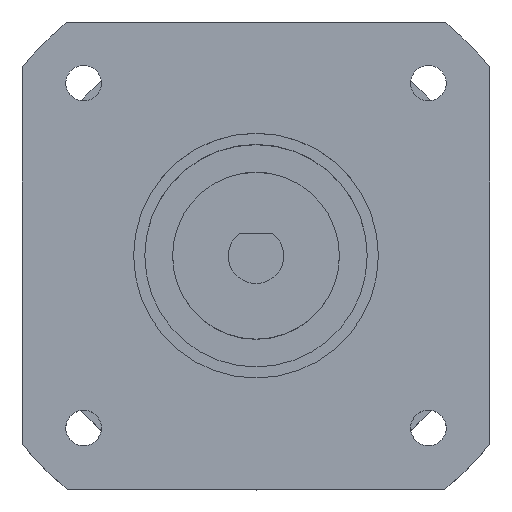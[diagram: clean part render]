
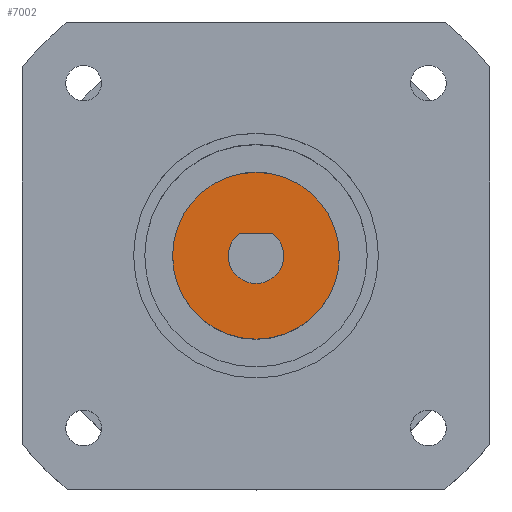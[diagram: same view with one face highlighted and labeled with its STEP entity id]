
A CAD part, top view. The second image highlights one B-rep face of the part: STEP entity #7002.
In plain terms, the highlighted planar face has unit normal (0, 0, 1).
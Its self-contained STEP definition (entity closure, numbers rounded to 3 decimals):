
#115 = CARTESIAN_POINT ( 'NONE',  ( 0., 0., 2.2 ) ) ;
#129 = CIRCLE ( 'NONE', #1413, 2.5 ) ;
#138 = VERTEX_POINT ( 'NONE', #1437 ) ;
#370 = DIRECTION ( 'NONE',  ( 1., 0., 0. ) ) ;
#404 = DIRECTION ( 'NONE',  ( 0., 0., 1. ) ) ;
#442 = AXIS2_PLACEMENT_3D ( 'NONE', #1451, #6520, #2112 ) ;
#488 = VERTEX_POINT ( 'NONE', #7014 ) ;
#688 = AXIS2_PLACEMENT_3D ( 'NONE', #115, #1170, #5799 ) ;
#1004 = DIRECTION ( 'NONE',  ( 0., 0., 1. ) ) ;
#1068 = EDGE_CURVE ( 'NONE', #5785, #2132, #1134, .T. ) ;
#1089 = CARTESIAN_POINT ( 'NONE',  ( 1.5, 2., 2.2 ) ) ;
#1134 = CIRCLE ( 'NONE', #442, 7.5 ) ;
#1156 = CIRCLE ( 'NONE', #688, 7.5 ) ;
#1170 = DIRECTION ( 'NONE',  ( 0., 0., 1. ) ) ;
#1413 = AXIS2_PLACEMENT_3D ( 'NONE', #1649, #404, #6600 ) ;
#1437 = CARTESIAN_POINT ( 'NONE',  ( -2.5, 0., 2.2 ) ) ;
#1451 = CARTESIAN_POINT ( 'NONE',  ( 0., 0., 2.2 ) ) ;
#1568 = AXIS2_PLACEMENT_3D ( 'NONE', #6046, #1004, #3908 ) ;
#1649 = CARTESIAN_POINT ( 'NONE',  ( 0., 0., 2.2 ) ) ;
#1716 = EDGE_CURVE ( 'NONE', #488, #4081, #129, .T. ) ;
#1748 = CARTESIAN_POINT ( 'NONE',  ( -7.5, 0., 2.2 ) ) ;
#1967 = DIRECTION ( 'NONE',  ( 0., 0., 1. ) ) ;
#1973 = EDGE_CURVE ( 'NONE', #6137, #138, #6793, .T. ) ;
#2112 = DIRECTION ( 'NONE',  ( 1., 0., 0. ) ) ;
#2126 = EDGE_CURVE ( 'NONE', #138, #488, #5206, .T. ) ;
#2132 = VERTEX_POINT ( 'NONE', #1748 ) ;
#2602 = FACE_BOUND ( 'NONE', #4932, .T. ) ;
#2725 = EDGE_LOOP ( 'NONE', ( #5038, #3750 ) ) ;
#3082 = PLANE ( 'NONE',  #6804 ) ;
#3541 = CARTESIAN_POINT ( 'NONE',  ( -1.5, 2., 2.2 ) ) ;
#3633 = DIRECTION ( 'NONE',  ( -1., 0., 0. ) ) ;
#3659 = DIRECTION ( 'NONE',  ( 1., 0., 0. ) ) ;
#3750 = ORIENTED_EDGE ( 'NONE', *, *, #1068, .T. ) ;
#3908 = DIRECTION ( 'NONE',  ( 1., 0., 0. ) ) ;
#4081 = VERTEX_POINT ( 'NONE', #1089 ) ;
#4212 = LINE ( 'NONE', #5421, #4911 ) ;
#4367 = ORIENTED_EDGE ( 'NONE', *, *, #1716, .F. ) ;
#4435 = ORIENTED_EDGE ( 'NONE', *, *, #6931, .F. ) ;
#4801 = DIRECTION ( 'NONE',  ( 0., 0., 1. ) ) ;
#4911 = VECTOR ( 'NONE', #3633, 1000. ) ;
#4932 = EDGE_LOOP ( 'NONE', ( #6035, #4435, #4367, #6473 ) ) ;
#5038 = ORIENTED_EDGE ( 'NONE', *, *, #7176, .T. ) ;
#5145 = AXIS2_PLACEMENT_3D ( 'NONE', #6485, #1967, #3659 ) ;
#5206 = CIRCLE ( 'NONE', #1568, 2.5 ) ;
#5291 = FACE_OUTER_BOUND ( 'NONE', #2725, .T. ) ;
#5321 = CARTESIAN_POINT ( 'NONE',  ( 0., 0., 2.2 ) ) ;
#5421 = CARTESIAN_POINT ( 'NONE',  ( -1.5, 2., 2.2 ) ) ;
#5785 = VERTEX_POINT ( 'NONE', #6967 ) ;
#5799 = DIRECTION ( 'NONE',  ( 1., 0., 0. ) ) ;
#6035 = ORIENTED_EDGE ( 'NONE', *, *, #1973, .F. ) ;
#6046 = CARTESIAN_POINT ( 'NONE',  ( 0., 0., 2.2 ) ) ;
#6137 = VERTEX_POINT ( 'NONE', #3541 ) ;
#6473 = ORIENTED_EDGE ( 'NONE', *, *, #2126, .F. ) ;
#6485 = CARTESIAN_POINT ( 'NONE',  ( 0., 0., 2.2 ) ) ;
#6520 = DIRECTION ( 'NONE',  ( 0., 0., 1. ) ) ;
#6600 = DIRECTION ( 'NONE',  ( 1., 0., 0. ) ) ;
#6793 = CIRCLE ( 'NONE', #5145, 2.5 ) ;
#6804 = AXIS2_PLACEMENT_3D ( 'NONE', #5321, #4801, #370 ) ;
#6931 = EDGE_CURVE ( 'NONE', #4081, #6137, #4212, .T. ) ;
#6967 = CARTESIAN_POINT ( 'NONE',  ( 7.5, 0., 2.2 ) ) ;
#7002 = ADVANCED_FACE ( 'NONE', ( #2602, #5291 ), #3082, .T. ) ;
#7014 = CARTESIAN_POINT ( 'NONE',  ( 2.5, 0., 2.2 ) ) ;
#7176 = EDGE_CURVE ( 'NONE', #2132, #5785, #1156, .T. ) ;
